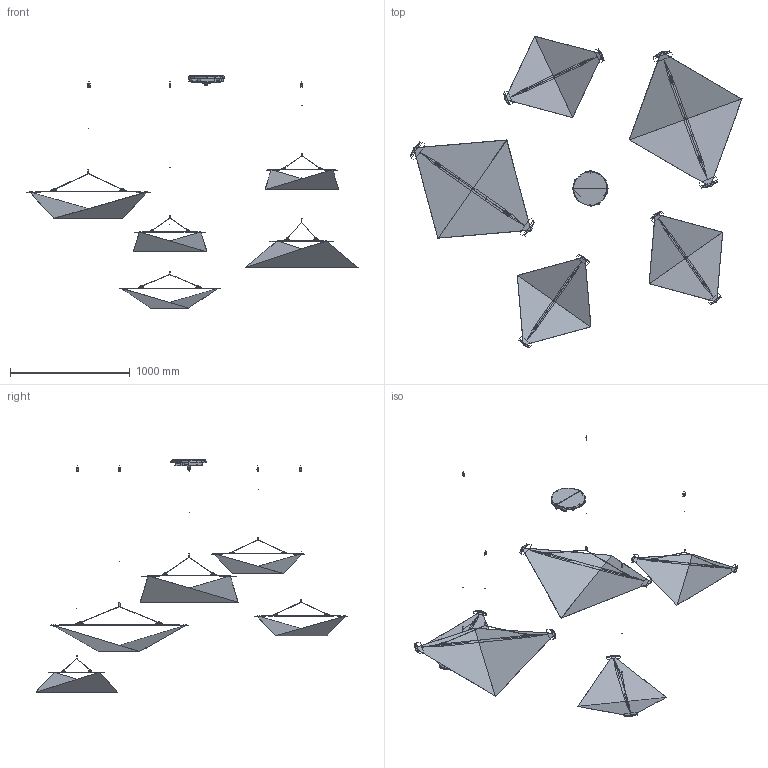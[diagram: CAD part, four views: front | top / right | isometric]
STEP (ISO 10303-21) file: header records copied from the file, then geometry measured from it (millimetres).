
FILE_DESCRIPTION(/* description */ (''),/* implementation_level */ '2;1');
FILE_NAME(/* name */ 'Multi Canopy, 5 pcs',/* time_stamp */ '2023-05-25T14:08:27+02:00',/* author */ (''),/* organization */ (''),/* preprocessor_version */ 'ST-DEVELOPER v16.5',/* originating_system */ 'Rhino 7.29',/* authorisation */ '');
FILE_SCHEMA (('CONFIG_CONTROL_DESIGN'));
Products named in the file (20): Document; ST4X16; M4X4_SET_SCREW; WIRE_CLIP_TOP; WIRE_CLIP; CANOPY_US_BRACKET_300; CANOPY_US_BOTTOM_300_ASM; CANOPY_300; RUBBER_PLUG; CANOPY_SCREW_M4; M4X6_SET_SCREW; CABLE_SOCKET_SCREW_5; M6_SET_SCREW1; M20_TEETH_WASHER; M20X1_5NUT; LED_DRIVER_CE; CONNECTOR; TOOTH_WASHER_M4; GROUND_WIRE; M4X5PM
Assembly tree (51 placements, depth 3):
  Document
    ST4X16  x5
    M4X4_SET_SCREW  x10
    WIRE_CLIP_TOP  x5
    WIRE_CLIP  x5
    CANOPY_US_BRACKET_300
    CANOPY_US_BOTTOM_300_ASM
      CANOPY_300
      RUBBER_PLUG
      CANOPY_SCREW_M4  x3
      M4X6_SET_SCREW
      CABLE_SOCKET_SCREW_5
      M6_SET_SCREW1  x5
      M20_TEETH_WASHER
      M20X1_5NUT
      LED_DRIVER_CE  x5
      CONNECTOR  x2
    TOOTH_WASHER_M4
    GROUND_WIRE
    M4X5PM
Bounding box: 2774.84 x 2607.16 x 1939.92 mm (x, y, z)
Volume: 5151949.5 mm3; surface area: 15787644.5 mm2
Topology: 129 solids, 150 shells, 7486 faces, 19467 edges, 12386 vertices
Faces by surface type: bspline 3660, plane 3004, cylinder 822
Full cylindrical faces by diameter (mm): 4 x10
Entity records: 407063 total; most frequent: CARTESIAN_POINT 296573, ORIENTED_EDGE 34312, EDGE_CURVE 17185, B_SPLINE_CURVE_WITH_KNOTS 13850, VERTEX_POINT 11002, EDGE_LOOP 7021, ADVANCED_FACE 6585, FACE_OUTER_BOUND 6585
